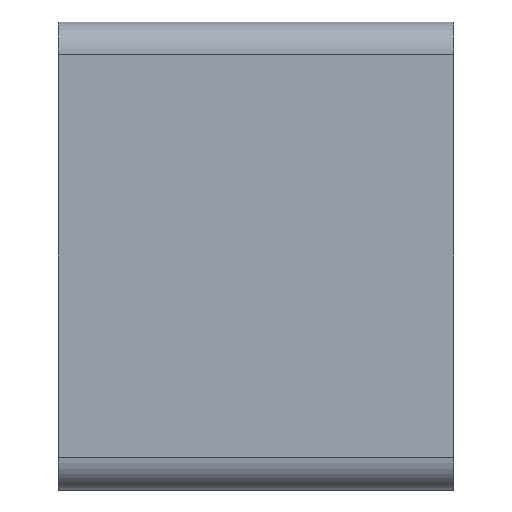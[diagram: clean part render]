
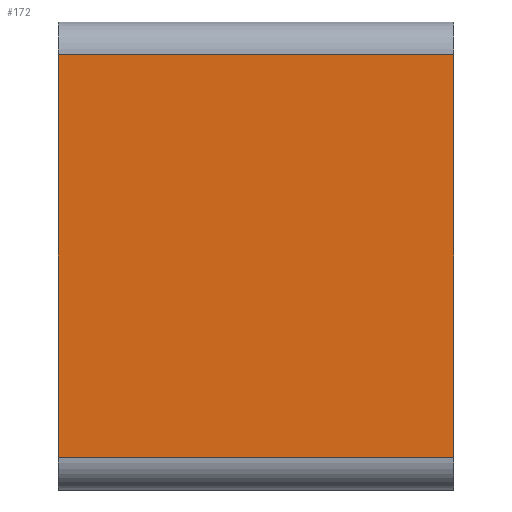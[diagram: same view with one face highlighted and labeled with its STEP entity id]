
A CAD part, left-side view. The second image highlights one B-rep face of the part: STEP entity #172.
In plain terms, the highlighted planar face has unit normal (-1, 0, 0).
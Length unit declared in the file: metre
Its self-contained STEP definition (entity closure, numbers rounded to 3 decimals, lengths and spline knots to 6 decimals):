
#16=LINE('',#270,#32);
#23=LINE('',#299,#39);
#24=LINE('',#301,#40);
#25=LINE('',#302,#41);
#32=VECTOR('',#217,1.);
#39=VECTOR('',#240,1.);
#40=VECTOR('',#243,1.);
#41=VECTOR('',#244,1.);
#64=ORIENTED_EDGE('',*,*,#97,.T.);
#65=ORIENTED_EDGE('',*,*,#112,.F.);
#66=ORIENTED_EDGE('',*,*,#111,.F.);
#67=ORIENTED_EDGE('',*,*,#113,.T.);
#97=EDGE_CURVE('',#122,#120,#16,.T.);
#111=EDGE_CURVE('',#135,#128,#23,.T.);
#112=EDGE_CURVE('',#128,#120,#24,.T.);
#113=EDGE_CURVE('',#135,#122,#25,.T.);
#120=VERTEX_POINT('',#268);
#122=VERTEX_POINT('',#271);
#128=VERTEX_POINT('',#285);
#135=VERTEX_POINT('',#298);
#146=EDGE_LOOP('',(#64,#65,#66,#67));
#156=FACE_BOUND('',#146,.T.);
#166=PLANE('',#203);
#172=ADVANCED_FACE('',(#156),#166,.F.);
#203=AXIS2_PLACEMENT_3D('',#300,#241,#242);
#217=DIRECTION('',(0.,0.,1.));
#240=DIRECTION('',(0.,0.,1.));
#241=DIRECTION('',(1.,0.,0.));
#242=DIRECTION('',(0.,0.,-1.));
#243=DIRECTION('',(0.,-1.,0.));
#244=DIRECTION('',(0.,-1.,0.));
#268=CARTESIAN_POINT('',(-0.01125,-0.00515,0.00525));
#270=CARTESIAN_POINT('',(-0.01125,-0.00515,0.00525));
#271=CARTESIAN_POINT('',(-0.01125,-0.00515,-0.00525));
#285=CARTESIAN_POINT('',(-0.01125,0.00515,0.00525));
#298=CARTESIAN_POINT('',(-0.01125,0.00515,-0.00525));
#299=CARTESIAN_POINT('',(-0.01125,0.00515,0.00525));
#300=CARTESIAN_POINT('',(-0.01125,0.00515,0.00525));
#301=CARTESIAN_POINT('',(-0.01125,0.00515,0.00525));
#302=CARTESIAN_POINT('',(-0.01125,0.00515,-0.00525));
